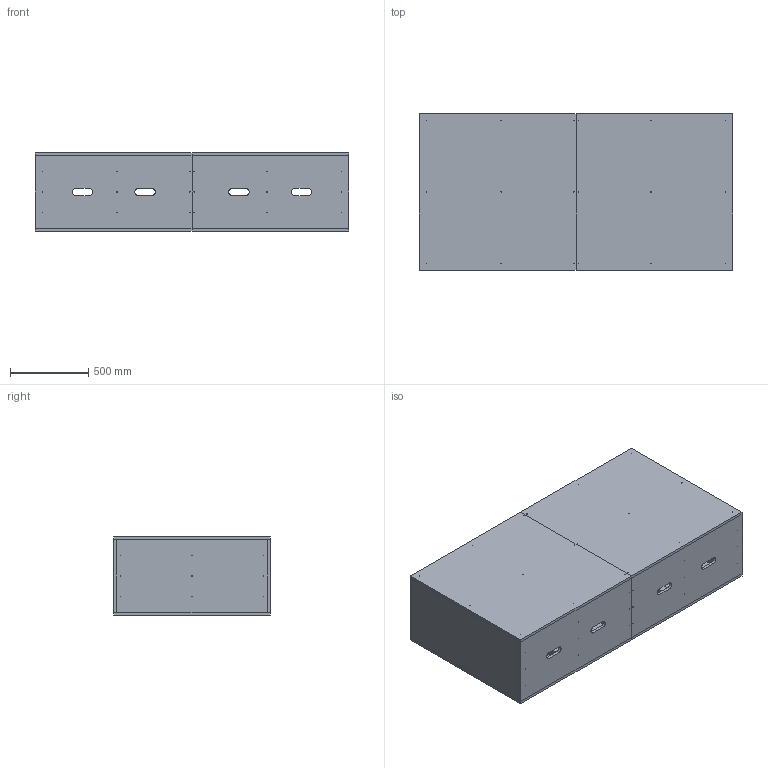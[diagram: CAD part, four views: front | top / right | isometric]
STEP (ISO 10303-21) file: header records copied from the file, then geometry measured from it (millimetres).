
FILE_DESCRIPTION(('Open CASCADE Model'),'2;1');
FILE_NAME('Open CASCADE Shape Model','2026-09-28T10:13:48',('Author'),( 'Open CASCADE'),'Open CASCADE STEP processor 7.9','Open CASCADE 7.9' ,'Unknown');
FILE_SCHEMA(('AUTOMOTIVE_DESIGN { 1 0 10303 214 1 1 1 1 }'));
Length unit declared in the file: millimetre
Products named in the file (42): box_500x1000x2000; bottom_left; bottom_right; top_left; top_right; front_left; front_right; back_left; back_right; end_left; end_right; post_0_0; post_0_1; post_0_2; post_1_0; post_1_1; post_1_2; post_2_0; post_2_1; post_2_2; post_3_0; post_3_1; post_3_2; post_4_0; post_4_1; post_4_2; cross_0_0; cross_0_1; cross_0_2; cross_0_3; cross_0_4; longitudinal_0_0; longitudinal_0_1; longitudinal_0_2; cross_1_0; cross_1_1; cross_1_2; cross_1_3; cross_1_4; longitudinal_1_0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
Assembly tree (41 placements, depth 2):
  box_500x1000x2000
    bottom_left
    bottom_right
    top_left
    top_right
    front_left
    front_right
    back_left
    back_right
    end_left
    end_right
    post_0_0
    post_0_1
    post_0_2
    post_1_0
    post_1_1
    post_1_2
    post_2_0
    post_2_1
    post_2_2
    post_3_0
    post_3_1
    post_3_2
    post_4_0
    post_4_1
    post_4_2
    cross_0_0
    cross_0_1
    cross_0_2
    cross_0_3
    cross_0_4
    longitudinal_0_0
    longitudinal_0_1
    longitudinal_0_2
    cross_1_0
    cross_1_1
    cross_1_2
    cross_1_3
    cross_1_4
    longitudinal_1_0
    longitudinal_1_1
    longitudinal_1_2
Bounding box: 2000 x 1000 x 500 mm (x, y, z)
Volume: 187932881.7 mm3; surface area: 19604646.5 mm2
Topology: 41 solids, 41 shells, 368 faces, 858 edges, 572 vertices
Faces by surface type: plane 262, cylinder 106
Full cylindrical faces by diameter (mm): 2.5 x90
Entity records: 22954 total; most frequent: CARTESIAN_POINT 3620, DIRECTION 3542, LINE 2086, VECTOR 2086, ORIENTED_EDGE 1716, PCURVE 1716, DEFINITIONAL_REPRESENTATION 1716, EDGE_CURVE 858
